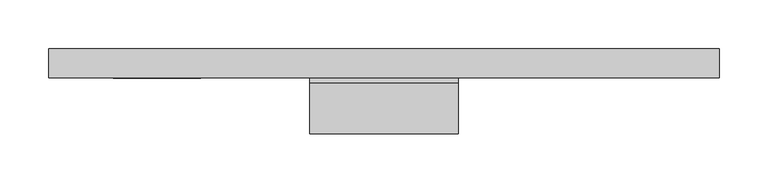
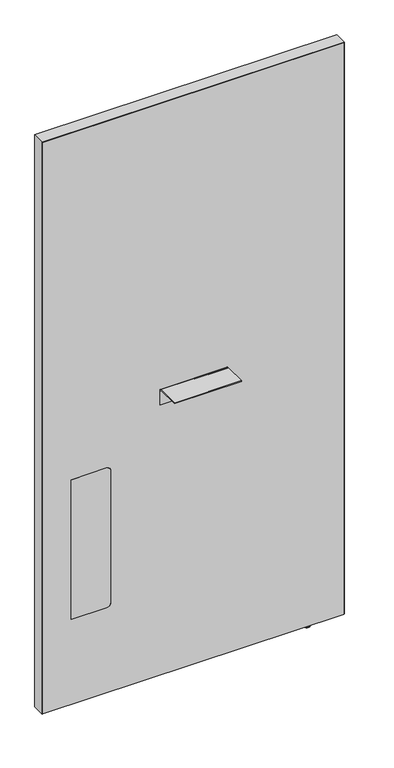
"""IFC4 building model written with IfcOpenShell, lengths in millimetres: furniture geometry, Steelcase - Answer Solution - Boundary Screen - Straight - Single Sided : 54H x 27W."""

from ifc_helpers import new_model, si_unit, point, frame, frame_2d, origin, place, context, project, spatial, polyline, circle_curve, ellipse_curve, trimmed, segment, composite_curve, outline, extrude, source, transform, mapped, element, save
from ifc_brep_helpers import plane_surface, cylinder_surface, revolved_surface, advanced_brep


def furniture_653024aa(model_context):
    return source(origin(), model_context, "Body", "SolidModel", [
        extrude(outline(composite_curve([segment(polyline([(-86.8398151, 696.4680019), (-86.8398151, 698.5), (-34.9450855, 698.5)]), True, "CONTINUOUS"), segment(trimmed(circle_curve(frame_2d((-34.9450855, 693.2447477)), 5.2552523), [point((-34.9450855, 698.5))], [point((-29.6898332, 693.2447477))], False, "CARTESIAN"), True, "CONTINUOUS"), segment(polyline([(-29.6898332, 693.2447477), (-29.6898332, 660.4), (-31.7218162, 660.4), (-31.7218162, 693.0058743)]), True, "CONTINUOUS"), segment(trimmed(circle_curve(frame_2d((-35.1839438, 693.0058743)), 3.4621276), [point((-31.7218162, 693.0058743))], [point((-35.1839438, 696.4680019))], True, "CARTESIAN"), True, "CONTINUOUS"), segment(polyline([(-35.1839438, 696.4680019), (-86.8398151, 696.4680019)]), True, "CONTINUOUS")], self_intersect=False)), frame((-379.7808593, 0.0, 0.0), z_axis=(1.0, 0.0, 0.0), x_axis=(0.0, 1.0, 0.0)), (0.0, 0.0, 1.0), 152.4000969),
        advanced_brep(
        [(-37.8713512, -23.7588726, 9.9059849), (-37.8713512, -5.9309607, 9.9059849), (-37.8713512, -14.8449166, 9.9059849), (-37.8713512, -23.7588726, 2.9673238), (-37.8713512, -5.9309607, 2.9673238), (-37.8713512, -22.7915354, 2.9673238), (-37.8713512, -6.8982978, 2.9673238), (-37.8713512, -22.7915354, 1.6569081), (-37.8713512, -6.8982978, 1.6569081), (-37.8713512, -21.1346274, 0.0), (-37.8713512, -8.5552059, 0.0), (-37.8713512, -14.8449166, 0.0)],
        [
            (0, 1, circle_curve(frame((-37.8713512, -14.8449166, 9.9059849), z_axis=(0.0, 0.0, 1.0), x_axis=(0.0, 1.0, 0.0)), 8.913956)),
            (1, 2),
            (2, 0),
            (1, 0, circle_curve(frame((-37.8713512, -14.8449166, 9.9059849), z_axis=(0.0, 0.0, 1.0), x_axis=(0.0, 1.0, 0.0)), 8.913956)),
            (3, 4, circle_curve(frame((-37.8713512, -14.8449166, 2.9673238), z_axis=(0.0, 0.0, 1.0), x_axis=(0.0, 1.0, 0.0)), 8.913956)),
            (4, 1),
            (0, 3),
            (4, 3, circle_curve(frame((-37.8713512, -14.8449166, 2.9673238), z_axis=(0.0, 0.0, 1.0), x_axis=(0.0, 1.0, 0.0)), 8.913956)),
            (5, 6, circle_curve(frame((-37.8713512, -14.8449166, 2.9673238), z_axis=(0.0, 0.0, 1.0), x_axis=(0.0, 1.0, 0.0)), 7.9466188)),
            (6, 4),
            (3, 5),
            (6, 5, circle_curve(frame((-37.8713512, -14.8449166, 2.9673238), z_axis=(0.0, 0.0, 1.0), x_axis=(0.0, 1.0, 0.0)), 7.9466188)),
            (7, 8, circle_curve(frame((-37.8713512, -14.8449166, 1.6569081), z_axis=(0.0, 0.0, 1.0), x_axis=(0.0, 1.0, 0.0)), 7.9466188)),
            (8, 6),
            (5, 7),
            (8, 7, circle_curve(frame((-37.8713512, -14.8449166, 1.6569081), z_axis=(0.0, 0.0, 1.0), x_axis=(0.0, 1.0, 0.0)), 7.9466188)),
            (9, 10, circle_curve(frame((-37.8713512, -14.8449166, 0.0), z_axis=(0.0, 0.0, 1.0), x_axis=(0.0, 1.0, 0.0)), 6.2897107)),
            (10, 8, circle_curve(frame((-37.8713512, -8.5552059, 1.6569081), z_axis=(1.0, 0.0, 0.0), x_axis=(0.0, 1.0, 0.0)), 1.6569081)),
            (7, 9, circle_curve(frame((-37.8713512, -21.1346274, 1.6569081), z_axis=(1.0, 0.0, 0.0), x_axis=(0.0, -1.0, 0.0)), 1.6569081)),
            (10, 9, circle_curve(frame((-37.8713512, -14.8449166, 0.0), z_axis=(0.0, 0.0, 1.0), x_axis=(0.0, 1.0, 0.0)), 6.2897107)),
            (11, 10),
            (9, 11),
        ],
        [
            plane_surface(frame((-37.8713512, -14.8449166, 9.9059849), z_axis=(0.0, 0.0, 1.0), x_axis=(0.0, 1.0, 0.0))),
            cylinder_surface(frame((-37.8713512, -14.8449166, 9.9059849), z_axis=(0.0, 0.0, -1.0), x_axis=(0.0, 1.0, 0.0)), 8.913956),
            plane_surface(frame((-37.8713512, -14.8449166, 2.9673238), z_axis=(0.0, 0.0, -1.0), x_axis=(0.0, 1.0, 0.0))),
            cylinder_surface(frame((-37.8713512, -14.8449166, 9.9059849), z_axis=(0.0, 0.0, -1.0), x_axis=(0.0, 1.0, 0.0)), 7.9466188),
            revolved_surface(trimmed(ellipse_curve(frame((-37.8713512, -8.5552059, 1.6569081), z_axis=(-1.0, 0.0, 0.0), x_axis=(0.0, 1.0, 0.0)), 1.6569081, 1.6569081), [point((-37.8713512, -6.8982978, 1.6569081))], [point((-37.8713512, -8.5552059, 0.0))], True, "CARTESIAN"), (-37.8713512, -14.8449166, 9.9059849), (0.0, 0.0, -1.0)),
            plane_surface(frame((-37.8713512, -14.8449166, 0.0), z_axis=(0.0, 0.0, -1.0), x_axis=(0.0, 1.0, 0.0))),
        ],
        [
            (0, [[1, 2, 3]]),
            (0, [[4, -3, -2]]),
            (1, [[5, 6, -1, 7]]),
            (1, [[8, -7, -4, -6]]),
            (2, [[9, 10, -5, 11]]),
            (2, [[12, -11, -8, -10]]),
            (3, [[13, 14, -9, 15]]),
            (3, [[16, -15, -12, -14]]),
            (4, [[17, 18, -13, 19]]),
            (4, [[20, -19, -16, -18]]),
            (5, [[21, -17, 22]]),
            (5, [[-22, -20, -21]]),
        ],
    ),
        advanced_brep(
        [(38.2780168, 0.0, 1381.542118), (38.2780168, 0.0, 9.9059849), (-645.4902221, 0.0, 9.9059849), (-645.4902221, 0.0, 1381.542118), (38.2780168, -29.6898332, 1381.542118), (-645.4902221, -29.6898332, 1381.542118), (-645.4902221, -29.6898332, 9.9059849), (38.2780168, -29.6898332, 9.9059849), (-501.1463873, -29.6898332, 549.6162029), (-490.9863873, -29.6898332, 539.4562029), (-490.9863873, -29.6898332, 223.9362137), (-501.1463873, -29.6898332, 213.7762137), (-580.800285, -29.6898332, 213.7762137), (-580.800285, -29.6898332, 549.6162029), (-580.800285, -29.0550397, 549.6162029), (-501.1463873, -29.0550397, 549.6162029), (-580.800285, -29.0550397, 213.7762137), (-501.1463873, -29.0550397, 213.7762137), (-490.9863873, -29.0550397, 223.9362137), (-490.9863873, -29.0550397, 539.4562029)],
        [
            (0, 1),
            (1, 2),
            (2, 3),
            (3, 0),
            (4, 5),
            (5, 6),
            (6, 7),
            (7, 4),
            (8, 9, circle_curve(frame((-501.1463873, -29.6898332, 539.4562029), z_axis=(0.0, 1.0, 0.0), x_axis=(0.0, 0.0, 1.0)), 10.16)),
            (9, 10),
            (10, 11, circle_curve(frame((-501.1463873, -29.6898332, 223.9362137), z_axis=(0.0, 1.0, 0.0), x_axis=(0.0, 0.0, 1.0)), 10.16)),
            (11, 12),
            (12, 13),
            (13, 8),
            (0, 4),
            (7, 1),
            (6, 2),
            (5, 3),
            (13, 14),
            (14, 15),
            (15, 8),
            (12, 16),
            (16, 14),
            (11, 17),
            (17, 16),
            (10, 18),
            (18, 17, circle_curve(frame((-501.1463873, -29.0550397, 223.9362137), z_axis=(0.0, 1.0, 0.0), x_axis=(0.0, 0.0, 1.0)), 10.16)),
            (9, 19),
            (19, 18),
            (15, 19, circle_curve(frame((-501.1463873, -29.0550397, 539.4562029), z_axis=(0.0, 1.0, 0.0), x_axis=(0.0, 0.0, 1.0)), 10.16)),
        ],
        [
            plane_surface(frame((38.2780168, 0.0, 1381.542118), z_axis=(0.0, 1.0, 0.0), x_axis=(0.0, 0.0, -1.0))),
            plane_surface(frame((38.2780168, -29.6898332, 1381.542118), z_axis=(0.0, -1.0, 0.0), x_axis=(0.0, 0.0, 1.0))),
            plane_surface(frame((38.2780168, 0.0, 1381.542118), z_axis=(1.0, 0.0, 0.0), x_axis=(0.0, -1.0, 0.0))),
            plane_surface(frame((38.2780168, 0.0, 9.9059849), z_axis=(0.0, 0.0, -1.0), x_axis=(0.0, -1.0, 0.0))),
            plane_surface(frame((-645.4902221, 0.0, 9.9059849), z_axis=(-1.0, 0.0, 0.0), x_axis=(0.0, -1.0, 0.0))),
            plane_surface(frame((-645.4902221, 0.0, 1381.542118), z_axis=(0.0, 0.0, 1.0), x_axis=(0.0, -1.0, 0.0))),
            plane_surface(frame((-501.1463873, 0.0, 549.6162029), z_axis=(0.0, 0.0, -1.0), x_axis=(0.0, -1.0, 0.0))),
            plane_surface(frame((-580.800285, 0.0, 549.6162029), z_axis=(1.0, 0.0, 0.0), x_axis=(0.0, -1.0, 0.0))),
            plane_surface(frame((-580.800285, 0.0, 213.7762137), z_axis=(0.0, 0.0, 1.0), x_axis=(0.0, -1.0, 0.0))),
            revolved_surface(polyline([(-501.1463873, -29.6898332, 234.0962137), (-501.1463873, -29.0550397, 234.0962137)]), (-501.1463873, -29.6898332, 223.9362137), (0.0, -1.0, 0.0)),
            plane_surface(frame((-490.9863873, 0.0, 223.9362137), z_axis=(-1.0, 0.0, 0.0), x_axis=(0.0, -1.0, 0.0))),
            revolved_surface(polyline([(-501.1463873, -29.6898332, 549.6162029), (-501.1463873, -29.0550397, 549.6162029)]), (-501.1463873, -29.6898332, 539.4562029), (0.0, -1.0, 0.0)),
            plane_surface(frame((-490.9863873, -29.0550397, 629.172953), z_axis=(0.0, -1.0, 0.0), x_axis=(0.0, 0.0, 1.0))),
        ],
        [
            (0, [[1, 2, 3, 4]]),
            (1, [[5, 6, 7, 8], [9, 10, 11, 12, 13, 14]]),
            (2, [[-1, 15, -8, 16]]),
            (3, [[-2, -16, -7, 17]]),
            (4, [[-3, -17, -6, 18]]),
            (5, [[-4, -18, -5, -15]]),
            (6, [[-14, 19, 20, 21]]),
            (7, [[-13, 22, 23, -19]]),
            (8, [[-12, 24, 25, -22]]),
            (9, [[-11, 26, 27, -24]]),
            (10, [[-10, 28, 29, -26]]),
            (11, [[-9, -21, 30, -28]]),
            (12, [[-20, -23, -25, -27, -29, -30]]),
        ],
    ),
        extrude(outline(composite_curve([segment(polyline([(549.6162029, -501.1463873), (549.6162029, -580.800285), (213.7762137, -580.800285), (213.7762137, -501.1463873)]), True, "CONTINUOUS"), segment(trimmed(circle_curve(frame_2d((223.9362137, -501.1463873)), 10.16), [point((213.7762137, -501.1463873))], [point((223.9362137, -490.9863873))], False, "CARTESIAN"), True, "CONTINUOUS"), segment(polyline([(223.9362137, -490.9863873), (539.4562029, -490.9863873)]), True, "CONTINUOUS"), segment(trimmed(circle_curve(frame_2d((539.4562029, -501.1463873)), 10.16), [point((539.4562029, -490.9863873))], [point((549.6162029, -501.1463873))], False, "CARTESIAN"), True, "CONTINUOUS")], self_intersect=False)), frame((0.0, -29.6898332, 0.0), z_axis=(0.0, 1.0, 0.0), x_axis=(0.0, 0.0, 1.0)), (0.0, 0.0, 1.0), 0.6347935),
        extrude(outline(polyline([(1382.522, 39.3191891), (1382.522, -646.4808109), (9.9059849, -646.4808109), (9.9059849, -645.4902221), (1381.542118, -645.4902221), (1381.542118, 38.2780168), (9.9059849, 38.2780168), (9.9059849, 39.3191891), (1382.522, 39.3191891)])), frame((0.0, -29.6898332, 0.0), z_axis=(0.0, 1.0, 0.0), x_axis=(0.0, 0.0, 1.0)), (0.0, 0.0, 1.0), 29.6898332),
    ])


if __name__ == "__main__":
    model = new_model("IFC4")
    model_context = context("Model", 3, world=origin())
    ifc_project = project(units=[si_unit("LENGTHUNIT", "METRE", prefix="MILLI")], contexts=[model_context])
    site = spatial("IfcSite", under=ifc_project)
    building = spatial("IfcBuilding", under=site)
    placement = place(None, origin())
    furniture_shape = furniture_653024aa(model_context)
    element("IfcFurniture", 1, ObjectType="Steelcase - Answer Solution - Boundary Screen - Straight - Single Sided : 54H x 27W", at=placement, inside=building, context=model_context, shape_type="MappedRepresentation", body=[
        mapped(furniture_shape, transform((0.0, 0.0, 0.0), x_axis=(1.0, 0.0, 0.0), y_axis=(0.0, 1.0, 0.0), z_axis=(0.0, 0.0, 1.0))),
    ])
    save(model, "model.ifc")
